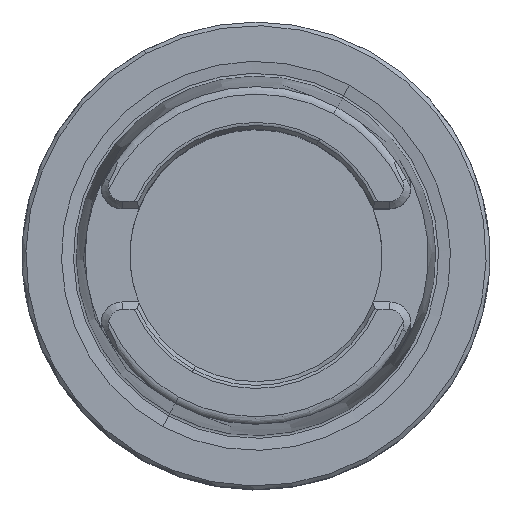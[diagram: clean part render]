
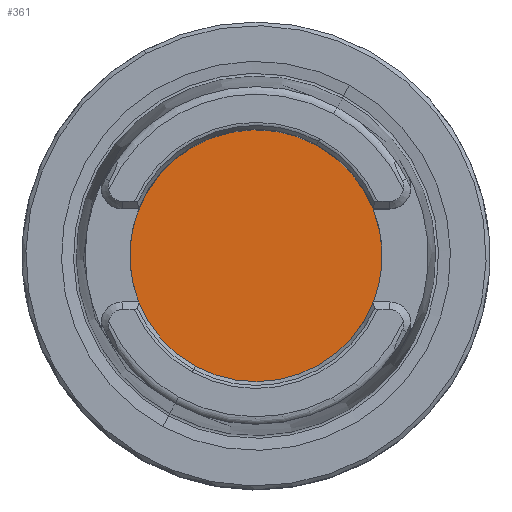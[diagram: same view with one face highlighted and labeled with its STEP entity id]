
A CAD part, top view. The second image highlights one B-rep face of the part: STEP entity #361.
In plain terms, the highlighted planar face has unit normal (0, 0, 1).
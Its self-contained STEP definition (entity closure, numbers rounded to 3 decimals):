
#305=AXIS2_PLACEMENT_3D('Circle Axis2P3D',#303,#304,$) ;
#350=AXIS2_PLACEMENT_3D('Plane Axis2P3D',#347,#348,#349) ;
#354=AXIS2_PLACEMENT_3D('Circle Axis2P3D',#352,#353,$) ;
#300=CARTESIAN_POINT('Vertex',(8.15,14.919,-10.)) ;
#303=CARTESIAN_POINT('Axis2P3D Location',(0.,0.,-10.)) ;
#307=CARTESIAN_POINT('Vertex',(-8.15,-14.919,-10.)) ;
#347=CARTESIAN_POINT('Axis2P3D Location',(0.,-15.75,-10.)) ;
#352=CARTESIAN_POINT('Axis2P3D Location',(0.,0.,-10.)) ;
#304=DIRECTION('Axis2P3D Direction',(0.,0.,-1.)) ;
#348=DIRECTION('Axis2P3D Direction',(0.,0.,-1.)) ;
#349=DIRECTION('Axis2P3D XDirection',(-1.,0.,0.)) ;
#353=DIRECTION('Axis2P3D Direction',(0.,0.,-1.)) ;
#358=ORIENTED_EDGE('',*,*,#309,.F.) ;
#359=ORIENTED_EDGE('',*,*,#356,.F.) ;
#361=ADVANCED_FACE('NO_CUT',(#360),#351,.F.) ;
#306=CIRCLE('generated circle',#305,17.) ;
#355=CIRCLE('generated circle',#354,17.) ;
#309=EDGE_CURVE('',#301,#308,#306,.T.) ;
#356=EDGE_CURVE('',#308,#301,#355,.T.) ;
#357=EDGE_LOOP('',(#358,#359)) ;
#360=FACE_OUTER_BOUND('',#357,.T.) ;
#351=PLANE('',#350) ;
#301=VERTEX_POINT('',#300) ;
#308=VERTEX_POINT('',#307) ;
